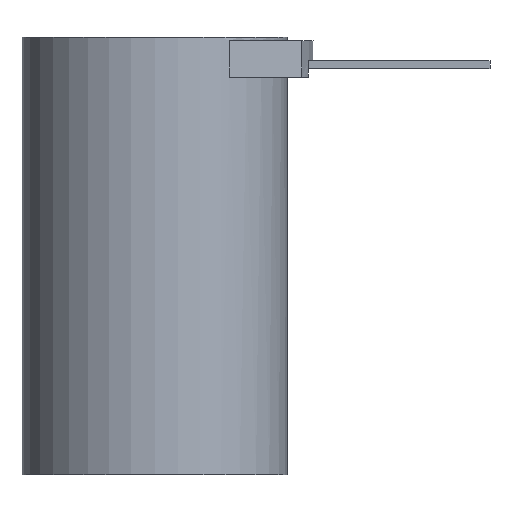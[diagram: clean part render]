
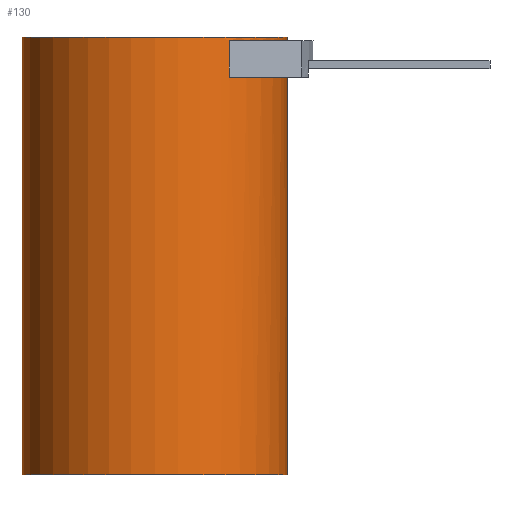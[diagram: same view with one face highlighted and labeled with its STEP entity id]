
A CAD part, front view. The second image highlights one B-rep face of the part: STEP entity #130.
In plain terms, the highlighted cylindrical face has radius 20 mm (diameter 40 mm), a partial arc.
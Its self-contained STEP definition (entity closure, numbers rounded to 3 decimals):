
#113=CYLINDRICAL_SURFACE('',#597,20.);
#130=ADVANCED_FACE('',(#175),#113,.T.);
#175=FACE_OUTER_BOUND('',#198,.T.);
#198=EDGE_LOOP('',(#301,#302,#303,#304,#305,#306,#307,#308,#309,#310));
#224=CIRCLE('',#577,20.);
#225=CIRCLE('',#580,20.);
#230=CIRCLE('',#590,20.);
#233=CIRCLE('',#595,20.);
#234=CIRCLE('',#596,20.);
#301=ORIENTED_EDGE('',*,*,#452,.F.);
#302=ORIENTED_EDGE('',*,*,#457,.F.);
#303=ORIENTED_EDGE('',*,*,#458,.T.);
#304=ORIENTED_EDGE('',*,*,#455,.T.);
#305=ORIENTED_EDGE('',*,*,#459,.F.);
#306=ORIENTED_EDGE('',*,*,#453,.F.);
#307=ORIENTED_EDGE('',*,*,#438,.F.);
#308=ORIENTED_EDGE('',*,*,#435,.F.);
#309=ORIENTED_EDGE('',*,*,#434,.F.);
#310=ORIENTED_EDGE('',*,*,#448,.F.);
#388=VERTEX_POINT('',#794);
#390=VERTEX_POINT('',#798);
#391=VERTEX_POINT('',#802);
#393=VERTEX_POINT('',#808);
#398=VERTEX_POINT('',#825);
#400=VERTEX_POINT('',#833);
#401=VERTEX_POINT('',#837);
#402=VERTEX_POINT('',#839);
#403=VERTEX_POINT('',#841);
#404=VERTEX_POINT('',#843);
#434=EDGE_CURVE('',#390,#388,#224,.T.);
#435=EDGE_CURVE('',#388,#391,#498,.T.);
#438=EDGE_CURVE('',#391,#393,#225,.T.);
#448=EDGE_CURVE('',#398,#390,#508,.T.);
#452=EDGE_CURVE('',#400,#398,#230,.T.);
#453=EDGE_CURVE('',#393,#401,#510,.T.);
#455=EDGE_CURVE('',#403,#402,#511,.T.);
#457=EDGE_CURVE('',#404,#400,#512,.T.);
#458=EDGE_CURVE('',#404,#403,#233,.T.);
#459=EDGE_CURVE('',#401,#402,#234,.T.);
#498=LINE('',#801,#537);
#508=LINE('',#827,#547);
#510=LINE('',#836,#549);
#511=LINE('',#840,#550);
#512=LINE('',#844,#551);
#537=VECTOR('',#647,1.);
#547=VECTOR('',#671,1.);
#549=VECTOR('',#685,1.);
#550=VECTOR('',#688,1.);
#551=VECTOR('',#691,1.);
#577=AXIS2_PLACEMENT_3D('',#799,#643,#644);
#580=AXIS2_PLACEMENT_3D('',#807,#652,#653);
#590=AXIS2_PLACEMENT_3D('',#834,#681,#682);
#595=AXIS2_PLACEMENT_3D('',#846,#694,#695);
#596=AXIS2_PLACEMENT_3D('',#847,#696,#697);
#597=AXIS2_PLACEMENT_3D('',#848,#698,#699);
#643=DIRECTION('',(0.,0.,1.));
#644=DIRECTION('',(-1.,0.,0.));
#647=DIRECTION('',(0.,0.,1.));
#652=DIRECTION('',(0.,0.,1.));
#653=DIRECTION('',(0.565,-0.825,0.));
#671=DIRECTION('',(0.,0.,-1.));
#681=DIRECTION('',(0.,0.,-1.));
#682=DIRECTION('',(-1.,0.,0.));
#685=DIRECTION('',(0.,0.,-1.));
#688=DIRECTION('',(0.,0.,-1.));
#691=DIRECTION('',(0.,0.,-1.));
#694=DIRECTION('',(0.,0.,-1.));
#695=DIRECTION('',(0.,1.,0.));
#696=DIRECTION('',(0.,0.,-1.));
#697=DIRECTION('',(0.,1.,0.));
#698=DIRECTION('',(0.,0.,-1.));
#699=DIRECTION('',(0.,-1.,0.));
#794=CARTESIAN_POINT('',(19.079,-6.,60.));
#798=CARTESIAN_POINT('',(11.305,-16.499,60.));
#799=CARTESIAN_POINT('',(0.,0.,60.));
#801=CARTESIAN_POINT('',(19.079,-6.,59.98));
#802=CARTESIAN_POINT('',(19.079,-6.,62.5));
#807=CARTESIAN_POINT('',(0.,0.,62.5));
#808=CARTESIAN_POINT('',(20.,0.,62.5));
#825=CARTESIAN_POINT('',(11.305,-16.499,65.5));
#827=CARTESIAN_POINT('',(11.305,-16.499,66.02));
#833=CARTESIAN_POINT('',(20.,0.,65.5));
#834=CARTESIAN_POINT('',(0.,0.,65.5));
#836=CARTESIAN_POINT('',(20.,0.,0.));
#837=CARTESIAN_POINT('',(20.,0.,0.));
#839=CARTESIAN_POINT('',(-20.,0.,0.));
#840=CARTESIAN_POINT('',(-20.,0.,0.));
#841=CARTESIAN_POINT('',(-20.,0.,66.));
#843=CARTESIAN_POINT('',(20.,0.,66.));
#844=CARTESIAN_POINT('',(20.,0.,0.));
#846=CARTESIAN_POINT('',(0.,0.,66.));
#847=CARTESIAN_POINT('',(0.,0.,0.));
#848=CARTESIAN_POINT('',(0.,0.,66.));
